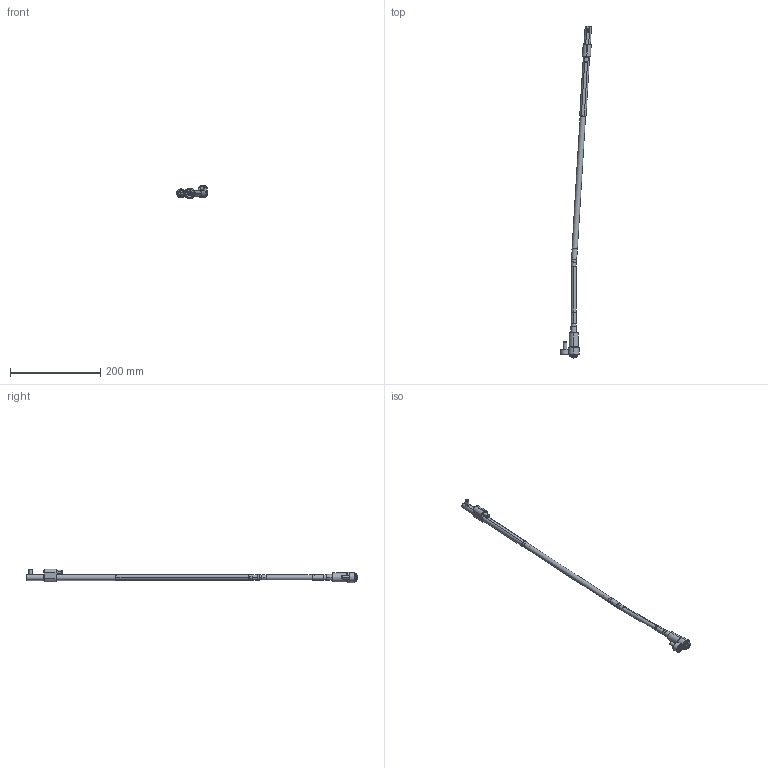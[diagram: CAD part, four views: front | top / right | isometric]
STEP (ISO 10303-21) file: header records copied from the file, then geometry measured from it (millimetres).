
FILE_DESCRIPTION (( 'STEP AP214' ), '1' );
FILE_NAME ('WL120100-INJ 3,5°.STEP', '2021-03-19T15:35:30', ( '' ), ( '' ), 'SwSTEP 2.0', 'SolidWorks 2019', '' );
FILE_SCHEMA (( 'AUTOMOTIVE_DESIGN' ));
Length unit declared in the file: millimetre
Products named in the file (17): Web-WL12-A8; WL120100-INJ 3,5°; 1DIN912820_DIN 912 M8 x 20 --- 20C; 9DR2808-TOR; WL120100-E; Web-WL12-A1; 1DIN912645_DIN 912 M6 x 45 --- 45C; WL120100-B; Web-WL12-F00.SLDPRT; Web-WL12-XX_OFF-WL120100-3,5; WL120100-B1; 8WL12EJEP; 3IMAN5X3-150_con sellador; WL120100-D; Web-WL12-A3; Web-WL12-F01; Web-WL12-A2
Assembly tree (16 placements, depth 3):
  WL120100-INJ 3,5°
    Web-WL12-A8
    Web-WL12-XX_OFF-WL120100-3,5
    Web-WL12-A3
    Web-WL12-A2
    Web-WL12-A1
    Web-WL12-F00.SLDPRT
      Web-WL12-F01
      1DIN912820_DIN 912 M8 x 20 --- 20C
      1DIN912645_DIN 912 M6 x 45 --- 45C
    WL120100-D
    8WL12EJEP
    WL120100-E
    9DR2808-TOR
    WL120100-B
      WL120100-B1
      3IMAN5X3-150_con sellador
Bounding box: 68.66 x 737.42 x 29.9 mm (x, y, z)
Volume: 113341.3 mm3; surface area: 49842.2 mm2
Topology: 15 solids, 15 shells, 432 faces, 906 edges, 525 vertices
Faces by surface type: plane 139, cylinder 123, cone 120, torus 50
Entity records: 13661 total; most frequent: DIRECTION 2240, CARTESIAN_POINT 2104, ORIENTED_EDGE 1788, AXIS2_PLACEMENT_3D 929, EDGE_CURVE 894, VERTEX_POINT 525, EDGE_LOOP 477, CIRCLE 476
